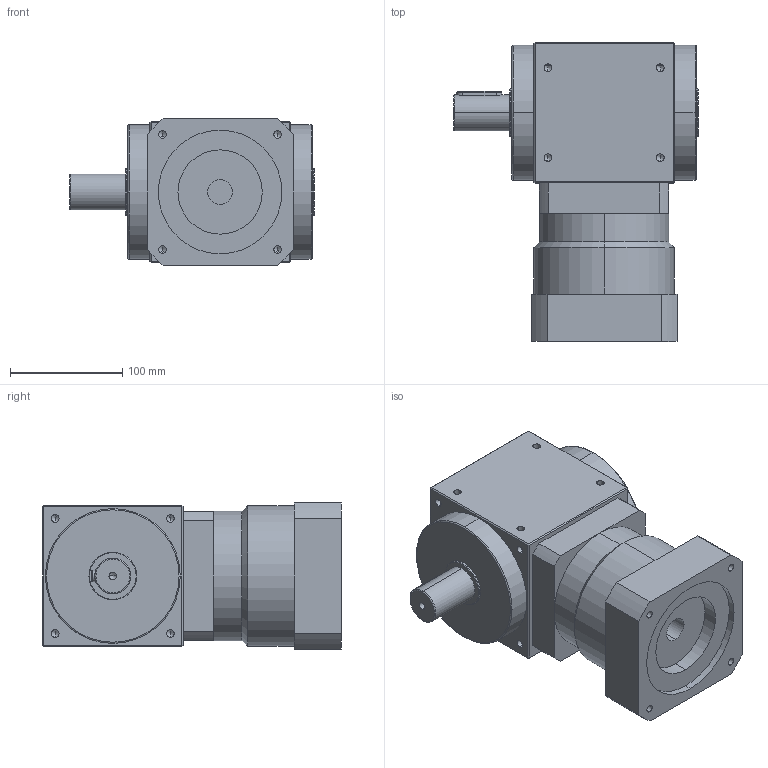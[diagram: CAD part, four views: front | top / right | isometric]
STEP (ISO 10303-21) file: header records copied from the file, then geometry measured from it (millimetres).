
FILE_DESCRIPTION (( 'STEP AP214' ), '1' );
FILE_NAME ('PAW125A-L1-P(3-10) 22-110-145-M8.STEP', '2020-12-07T02:26:07', ( '微软用户' ), ( '微软中国' ), 'SwSTEP 2.0', 'SolidWorks 2014', '' );
FILE_SCHEMA (( 'AUTOMOTIVE_DESIGN' ));
Length unit declared in the file: millimetre
Products named in the file (2): PAW125A-L1-P(3-10) 22-110-145-M8
Bounding box: 218 x 266 x 130 mm (x, y, z)
Volume: 4169751.8 mm3; surface area: 202730.4 mm2
Topology: 1 solids, 1 shells, 197 faces, 476 edges, 259 vertices
Faces by surface type: cylinder 80, cone 58, plane 53, torus 6
Entity records: 7670 total; most frequent: CARTESIAN_POINT 1042, DIRECTION 990, ORIENTED_EDGE 852, EDGE_CURVE 426, AXIS2_PLACEMENT_3D 383, VERTEX_POINT 259, EDGE_LOOP 233, LINE 224
